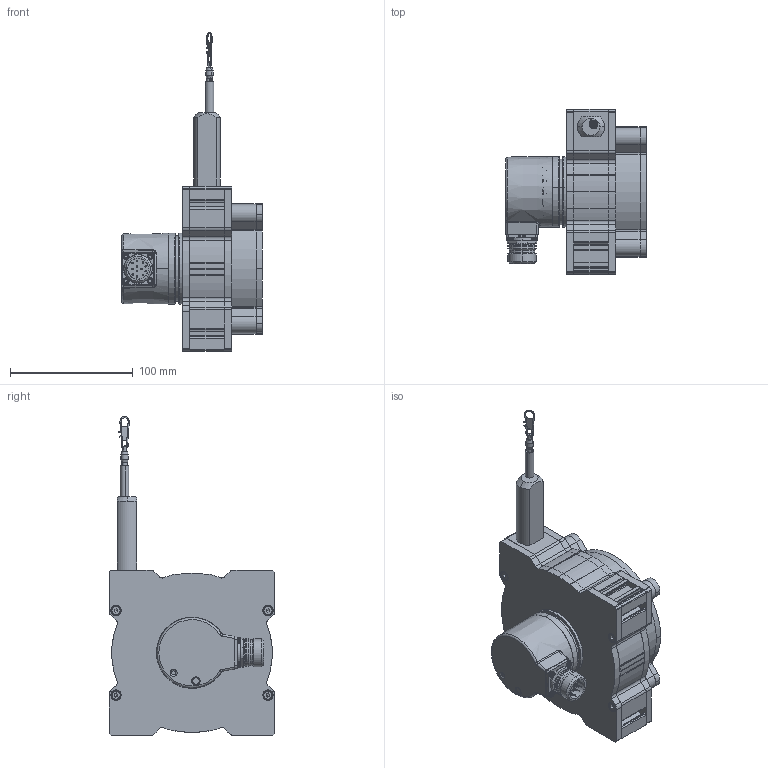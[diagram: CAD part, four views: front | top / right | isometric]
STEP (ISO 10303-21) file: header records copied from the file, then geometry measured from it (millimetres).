
FILE_DESCRIPTION (( 'STEP AP214' ), '1' );
FILE_NAME ('D8.4D1.0800.6324.G123.STEP', '2009-05-12T08:55:38', ( 'admin' ), ( 'Fritz Kübler GmbH' ), 'SwSTEP 2.0', 'SolidWorks 2009', '' );
FILE_SCHEMA (( 'AUTOMOTIVE_DESIGN' ));
Length unit declared in the file: millimetre
Products named in the file (1): D8.4D1.0800.6324.G123
Bounding box: 114.5 x 135 x 260.32 mm (x, y, z)
Volume: 421506.8 mm3; surface area: 216497.6 mm2
Topology: 43 solids, 45 shells, 2122 faces, 5408 edges, 3413 vertices
Faces by surface type: cylinder 996, plane 610, cone 296, torus 141, bspline 42, sphere 37
Entity records: 91526 total; most frequent: CARTESIAN_POINT 15343, DIRECTION 11722, ORIENTED_EDGE 10612, EDGE_CURVE 5306, AXIS2_PLACEMENT_3D 4700, VERTEX_POINT 3400, CIRCLE 2619, EDGE_LOOP 2364
